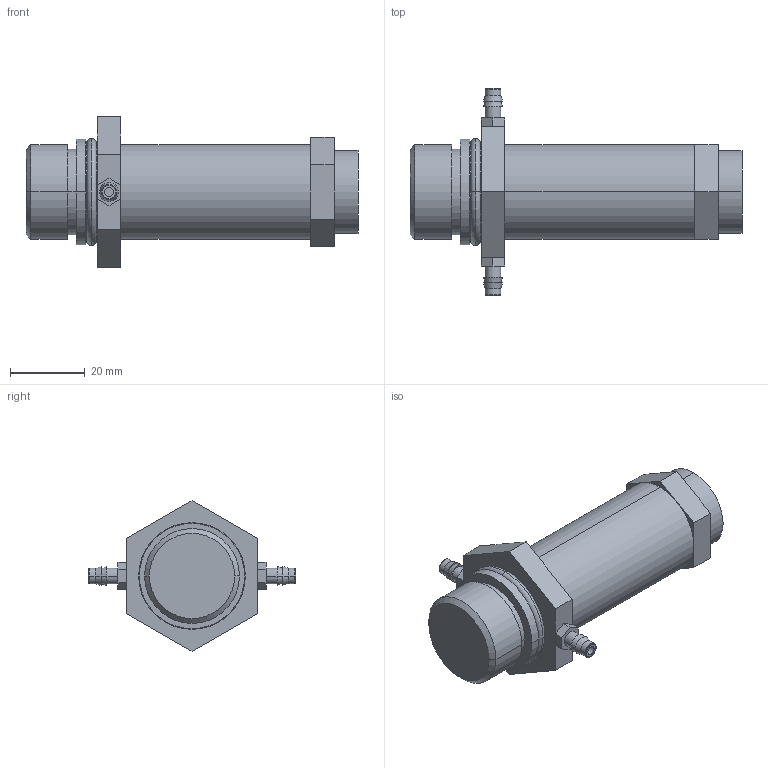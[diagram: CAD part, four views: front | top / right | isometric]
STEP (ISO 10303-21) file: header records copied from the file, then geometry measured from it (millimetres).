
FILE_DESCRIPTION((''),'2;1');
FILE_NAME('XGR2_ASM','2017-08-24T',('jennifer.elliott'),('CenterLine (Windsor) Ltd - Automation Components Division'),'PRO/ENGINEER BY PARAMETRIC TECHNOLOGY CORPORATION, 2015030','PRO/ENGINEER BY PARAMETRIC TECHNOLOGY CORPORATION, 2015030','');
FILE_SCHEMA(('AUTOMOTIVE_DESIGN { 1 0 10303 214 1 1 1 1 }'));
Length unit declared in the file: inch
Products named in the file (8): PRT1120; PRT1121; PRT1122; PRT1123; PRT1124; PRT1125; PRT1126; XGR2_ASM
Assembly tree (7 placements, depth 2):
  XGR2_ASM
    PRT1120
    PRT1121
    PRT1122
    PRT1123
    PRT1124
    PRT1125
    PRT1126
Bounding box: 88.9 x 55.55 x 40.33 mm (x, y, z)
Volume: 48716.6 mm3; surface area: 14117.7 mm2
Topology: 7 solids, 7 shells, 92 faces, 192 edges, 122 vertices
Faces by surface type: plane 46, cylinder 24, torus 12, cone 10
Entity records: 2980 total; most frequent: DIRECTION 492, CARTESIAN_POINT 443, ORIENTED_EDGE 384, AXIS2_PLACEMENT_3D 193, EDGE_CURVE 192, VERTEX_POINT 122, VECTOR 106, LINE 106
